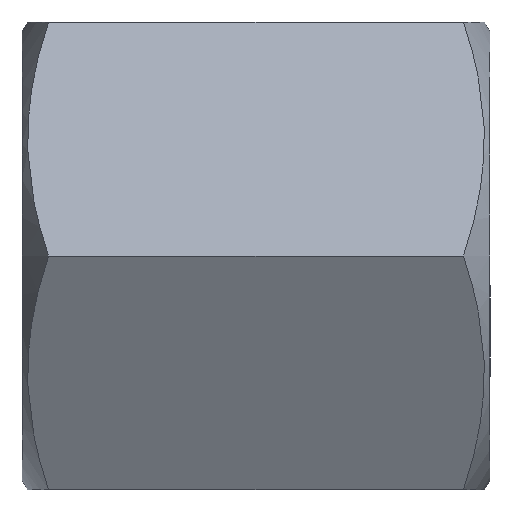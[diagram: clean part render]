
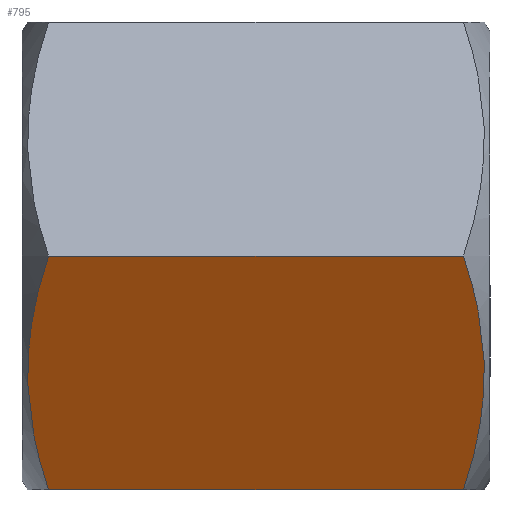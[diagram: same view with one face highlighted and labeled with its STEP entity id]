
A CAD part, front view. The second image highlights one B-rep face of the part: STEP entity #795.
In plain terms, the highlighted planar face has unit normal (0, -0.866, -0.5) as drawn and (-0.5, -0.866, 0) by its records, which use the part's own axes.
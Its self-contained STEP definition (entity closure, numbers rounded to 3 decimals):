
#168=CARTESIAN_POINT('',(-6.,-3.464,5.32));
#169=VERTEX_POINT('',#168);
#183=CARTESIAN_POINT('',(0.,-6.928,5.32));
#184=VERTEX_POINT('',#183);
#185=CARTESIAN_POINT('',(0.,-6.928,5.32));
#186=CARTESIAN_POINT('',(-3.,-5.196,6.32));
#187=CARTESIAN_POINT('',(-6.,-3.464,5.32));
#195=(BOUNDED_CURVE()B_SPLINE_CURVE(2,(#185,#186,#187),.UNSPECIFIED.,.F.,.U.)B_SPLINE_CURVE_WITH_KNOTS((3,3),(2.076,10.004),.UNSPECIFIED.)CURVE()GEOMETRIC_REPRESENTATION_ITEM()RATIONAL_B_SPLINE_CURVE((1.114,1.286,1.114))REPRESENTATION_ITEM(''));
#196=EDGE_CURVE('',#184,#169,#195,.T.);
#259=CARTESIAN_POINT('',(0.,-6.928,-5.32));
#260=VERTEX_POINT('',#259);
#274=CARTESIAN_POINT('',(-6.,-3.464,-5.32));
#275=VERTEX_POINT('',#274);
#276=CARTESIAN_POINT('',(-6.,-3.464,-5.32));
#277=CARTESIAN_POINT('',(-3.,-5.196,-6.32));
#278=CARTESIAN_POINT('',(0.,-6.928,-5.32));
#286=(BOUNDED_CURVE()B_SPLINE_CURVE(2,(#276,#277,#278),.UNSPECIFIED.,.F.,.U.)B_SPLINE_CURVE_WITH_KNOTS((3,3),(2.076,10.004),.UNSPECIFIED.)CURVE()GEOMETRIC_REPRESENTATION_ITEM()RATIONAL_B_SPLINE_CURVE((1.114,1.286,1.114))REPRESENTATION_ITEM(''));
#287=EDGE_CURVE('',#275,#260,#286,.T.);
#745=CARTESIAN_POINT('',(-6.,-3.464,5.32));
#746=DIRECTION('',(0.0,0.0,-1.0));
#747=VECTOR('',#746,10.64);
#748=LINE('',#745,#747);
#749=EDGE_CURVE('',#169,#275,#748,.T.);
#779=CARTESIAN_POINT('',(-6.,-3.464,0.0));
#780=DIRECTION('',(-0.5,-0.866,0.0));
#781=DIRECTION('',(0.0,0.0,-1.0));
#782=AXIS2_PLACEMENT_3D('',#779,#780,#781);
#783=PLANE('',#782);
#784=ORIENTED_EDGE('',*,*,#287,.T.);
#785=CARTESIAN_POINT('',(0.,-6.928,-5.32));
#786=DIRECTION('',(0.0,0.0,1.0));
#787=VECTOR('',#786,10.64);
#788=LINE('',#785,#787);
#789=EDGE_CURVE('',#260,#184,#788,.T.);
#790=ORIENTED_EDGE('',*,*,#789,.T.);
#791=ORIENTED_EDGE('',*,*,#196,.T.);
#792=ORIENTED_EDGE('',*,*,#749,.T.);
#793=EDGE_LOOP('',(#784,#790,#791,#792));
#794=FACE_OUTER_BOUND('',#793,.T.);
#795=ADVANCED_FACE('',(#794),#783,.T.);
